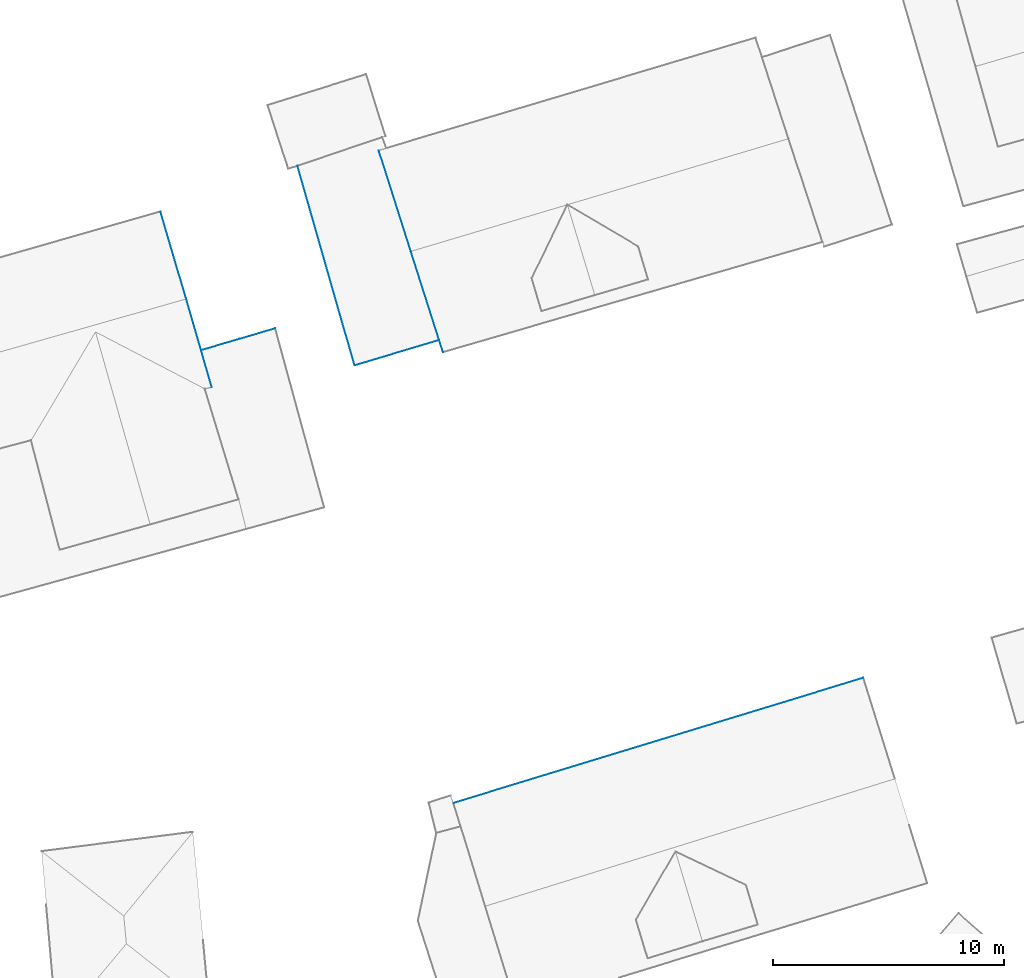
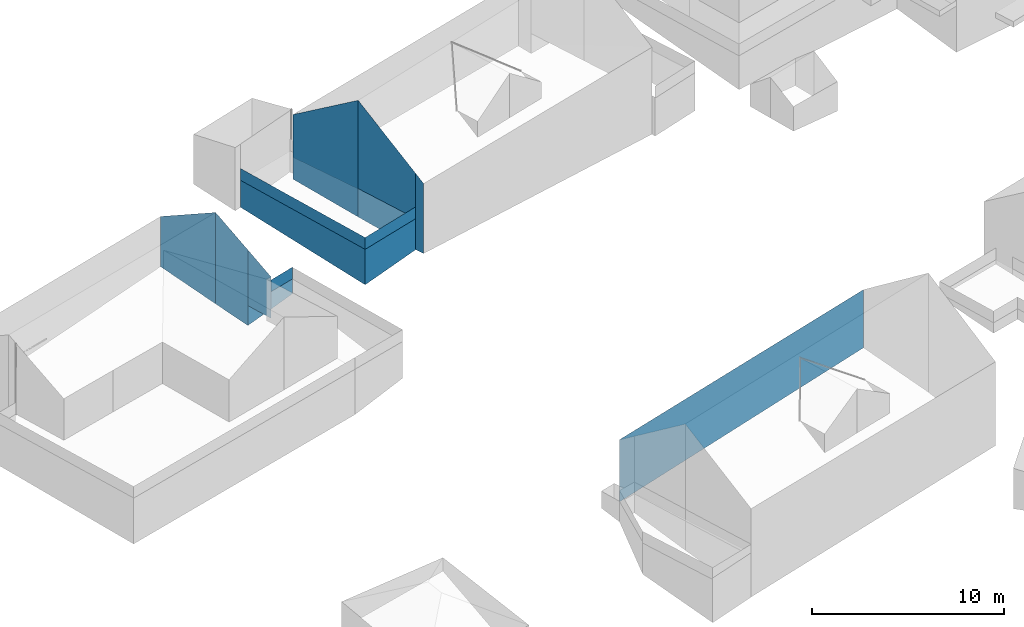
# Not in any storey, part 18 of 57: 19 walls.
"""IFC4 building model written with IfcOpenShell, lengths in metres."""

from ifc_helpers import new_model, entity, si_unit, converted_unit, frame, origin, place, context, subcontext, project, spatial, face_set, surface_model, element, save


model = new_model("IFC4")

# Units and contexts
model_context = context("Model", 3, precision=1e-05, world=origin())
body_context = subcontext(model_context, "Body", "Model", "MODEL_VIEW")
ifc_project = project(units=[converted_unit("PLANEANGLEUNIT", "DEGREE", entity("IfcRatioMeasure", 0.0174532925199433), si_unit("PLANEANGLEUNIT", "RADIAN"), dimensions=[0, 0, 0, 0, 0, 0, 0]), si_unit("AREAUNIT", "SQUARE_METRE"), si_unit("LENGTHUNIT", "METRE")], contexts=[model_context])

# Site, building
site_placement = place(None, origin())
site = spatial("IfcSite", under=ifc_project, at=site_placement, Name="_site")
building_1_placement = place(site_placement, origin())
building_1 = spatial("IfcBuilding", under=site, at=building_1_placement, Name="_building")

# Walls
wall_1_placement = place(building_1_placement, origin())
element("IfcWall", 1, at=wall_1_placement, inside=building_1, Name="Wall", PredefinedType="NOTDEFINED", context=body_context, shape_type="SurfaceModel", body=[
    surface_model("IfcFaceBasedSurfaceModel", [(111.028, 135.628, 122.5), (111.676, 133.402, 121.25), (111.676, 133.402, 116.45), (111.028, 135.628, 116.7)], [face_set([[[0, 1, 2, 3]]])]),
])
wall_2_placement = place(building_1_placement, origin())
element("IfcWall", 2, at=wall_2_placement, inside=building_1, Name="Wall", PredefinedType="NOTDEFINED", context=body_context, shape_type="SurfaceModel", body=[
    surface_model("IfcFaceBasedSurfaceModel", [(111.676, 133.402, 121.25), (112.139, 131.8, 120.35), (112.139, 131.8, 117.72), (111.676, 133.402, 117.72)], [face_set([[[0, 1, 2, 3]]])]),
])
wall_3_placement = place(building_1_placement, origin())
element("IfcWall", 3, at=wall_3_placement, inside=building_1, Name="Wall", PredefinedType="NOTDEFINED", context=body_context, shape_type="SurfaceModel", body=[
    surface_model("IfcFaceBasedSurfaceModel", [(109.915, 139.417, 120.34), (111.028, 135.628, 122.5), (111.028, 135.628, 116.7), (109.915, 139.417, 117.155)], [face_set([[[0, 1, 2, 3]]])]),
])

# Building
building_2_placement = place(site_placement, origin())
building_2 = spatial("IfcBuilding", under=site, at=building_2_placement, Name="_building")

# Walls
wall_4_placement = place(building_2_placement, origin())
element("IfcWall", 4, at=wall_4_placement, inside=building_2, Name="Wall", PredefinedType="NOTDEFINED", context=body_context, shape_type="SurfaceModel", body=[
    surface_model("IfcFaceBasedSurfaceModel", [(113.348, 133.893, 117.72), (114.89, 134.347, 117.72), (114.89, 134.347, 116.769), (113.348, 133.893, 116.603)], [face_set([[[0, 1, 2, 3]]])]),
])
wall_5_placement = place(building_2_placement, origin())
element("IfcWall", 5, at=wall_5_placement, inside=building_2, Name="Wall", PredefinedType="NOTDEFINED", context=body_context, shape_type="SurfaceModel", body=[
    surface_model("IfcFaceBasedSurfaceModel", [(111.676, 133.402, 117.72), (113.348, 133.893, 117.72), (113.348, 133.893, 116.603), (111.676, 133.402, 116.45)], [face_set([[[0, 1, 2, 3]]])]),
])
for number, where, name in (
    (6, (0.0, 0.0, 0.0), "Wall"),
    (7, (0.0, 0.0, 0.0), "Wall"),
):
    element("IfcWall", number, at=place(building_2_placement, frame(where)), inside=building_2, Name=name, PredefinedType="NOTDEFINED", context=body_context, shape_type="SurfaceModel", body=[
        surface_model("IfcFaceBasedSurfaceModel", [(114.89, 134.347, 117.704), (113.348, 133.893, 117.704), (113.348, 133.893, 118.454), (114.89, 134.347, 118.454)], [face_set([[[0, 1, 2, 3]]])]),
    ])

# Building
building_3_placement = place(site_placement, origin())
building_3 = spatial("IfcBuilding", under=site, at=building_3_placement, Name="_building")

# Walls
wall_6_placement = place(building_3_placement, origin())
element("IfcWall", 8, at=wall_6_placement, inside=building_3, Name="Wall", PredefinedType="NOTDEFINED", context=body_context, shape_type="SurfaceModel", body=[
    surface_model("IfcFaceBasedSurfaceModel", [(118.335, 132.745, 119.351), (115.856, 141.4, 119.351), (115.856, 141.4, 117.642), (118.335, 132.745, 117.104)], [face_set([[[0, 1, 2, 3]]])]),
])
wall_7_placement = place(building_3_placement, origin())
element("IfcWall", 9, at=wall_7_placement, inside=building_3, Name="Wall", PredefinedType="NOTDEFINED", context=body_context, shape_type="SurfaceModel", body=[
    surface_model("IfcFaceBasedSurfaceModel", [(122.003, 133.841, 119.351), (118.335, 132.745, 119.351), (118.335, 132.745, 117.104), (122.003, 133.841, 117.387)], [face_set([[[0, 1, 2, 3]]])]),
])
wall_8_placement = place(building_3_placement, origin())
element("IfcWall", 10, at=wall_8_placement, inside=building_3, Name="Wall", PredefinedType="NOTDEFINED", context=body_context, shape_type="SurfaceModel", body=[
    surface_model("IfcFaceBasedSurfaceModel", [(118.335, 132.745, 119.351), (122.003, 133.841, 119.351), (122.003, 133.841, 120.101), (118.335, 132.745, 120.101)], [face_set([[[0, 1, 2, 3]]])]),
])
wall_9_placement = place(building_3_placement, origin())
element("IfcWall", 11, at=wall_9_placement, inside=building_3, Name="Wall", PredefinedType="NOTDEFINED", context=body_context, shape_type="SurfaceModel", body=[
    surface_model("IfcFaceBasedSurfaceModel", [(115.856, 141.4, 119.351), (118.335, 132.745, 119.351), (118.335, 132.745, 120.101), (115.856, 141.4, 120.101)], [face_set([[[0, 1, 2, 3]]])]),
])
wall_10_placement = place(building_3_placement, origin())
element("IfcWall", 12, at=wall_10_placement, inside=building_3, Name="Wall", PredefinedType="NOTDEFINED", context=body_context, shape_type="SurfaceModel", body=[
    surface_model("IfcFaceBasedSurfaceModel", [(118.335, 132.745, 119.351), (122.003, 133.841, 119.351), (122.003, 133.841, 120.101), (118.335, 132.745, 120.101)], [face_set([[[0, 1, 2, 3]]])]),
])
wall_11_placement = place(building_3_placement, origin())
element("IfcWall", 13, at=wall_11_placement, inside=building_3, Name="Wall", PredefinedType="NOTDEFINED", context=body_context, shape_type="SurfaceModel", body=[
    surface_model("IfcFaceBasedSurfaceModel", [(115.856, 141.4, 119.351), (118.335, 132.745, 119.351), (118.335, 132.745, 120.101), (115.856, 141.4, 120.101)], [face_set([[[0, 1, 2, 3]]])]),
])

# Building
building_4_placement = place(site_placement, origin())
building_4 = spatial("IfcBuilding", under=site, at=building_4_placement, Name="_building")

# Wall
wall_12_placement = place(building_4_placement, origin())
element("IfcWall", 14, at=wall_12_placement, inside=building_4, Name="Wall", PredefinedType="NOTDEFINED", context=body_context, shape_type="SurfaceModel", body=[
    surface_model("IfcFaceBasedSurfaceModel", [(122.623, 113.763, 117.28), (140.401, 119.191, 117.29), (140.401, 119.191, 113.598), (122.623, 113.763, 113.338)], [face_set([[[0, 1, 2, 3]]])]),
])

# Building
building_5_placement = place(site_placement, origin())
building_5 = spatial("IfcBuilding", under=site, at=building_5_placement, Name="_building")

# Walls
wall_13_placement = place(building_5_placement, origin())
element("IfcWall", 15, at=wall_13_placement, inside=building_5, Name="Wall", PredefinedType="NOTDEFINED", context=body_context, shape_type="SurfaceModel", body=[
    surface_model("IfcFaceBasedSurfaceModel", [(119.383, 142.067, 119.192), (120.772, 137.692, 119.351), (120.772, 137.692, 117.552), (119.383, 142.067, 117.787)], [face_set([[[0, 1, 2, 3]]])]),
])
wall_14_placement = place(building_5_placement, origin())
element("IfcWall", 16, at=wall_14_placement, inside=building_5, Name="Wall", PredefinedType="NOTDEFINED", context=body_context, shape_type="SurfaceModel", body=[
    surface_model("IfcFaceBasedSurfaceModel", [(122.17, 133.316, 121.84), (122.003, 133.841, 122.213), (122.003, 133.841, 117.387), (122.17, 133.316, 117.395)], [face_set([[[0, 1, 2, 3]]])]),
])
wall_15_placement = place(building_5_placement, origin())
element("IfcWall", 17, at=wall_15_placement, inside=building_5, Name="Wall", PredefinedType="NOTDEFINED", context=body_context, shape_type="SurfaceModel", body=[
    surface_model("IfcFaceBasedSurfaceModel", [(122.003, 133.841, 122.213), (120.772, 137.692, 124.95), (120.772, 137.692, 117.552), (122.003, 133.841, 117.387)], [face_set([[[0, 1, 2, 3]]])]),
])
wall_16_placement = place(building_5_placement, origin())
element("IfcWall", 18, at=wall_16_placement, inside=building_5, Name="Wall", PredefinedType="NOTDEFINED", context=body_context, shape_type="SurfaceModel", body=[
    surface_model("IfcFaceBasedSurfaceModel", [(120.772, 137.692, 119.351), (122.003, 133.841, 119.351), (122.003, 133.841, 117.387), (120.772, 137.692, 117.552)], [face_set([[[0, 1, 2, 3]]])]),
])
wall_17_placement = place(building_5_placement, origin())
element("IfcWall", 19, at=wall_17_placement, inside=building_5, Name="Wall", PredefinedType="NOTDEFINED", context=body_context, shape_type="SurfaceModel", body=[
    surface_model("IfcFaceBasedSurfaceModel", [(120.772, 137.692, 124.95), (119.383, 142.067, 121.88), (119.383, 142.067, 117.787), (120.772, 137.692, 117.552)], [face_set([[[0, 1, 2, 3]]])]),
])

save(model, "model.ifc")
